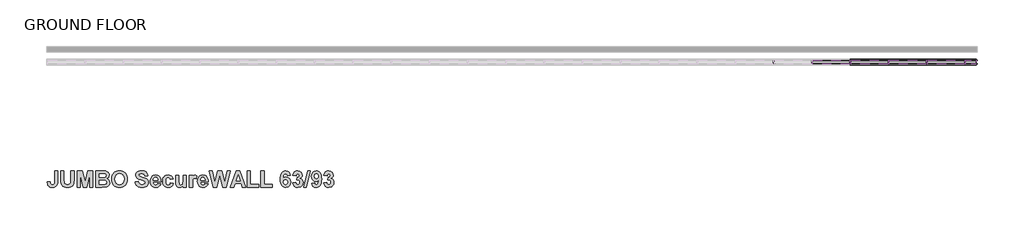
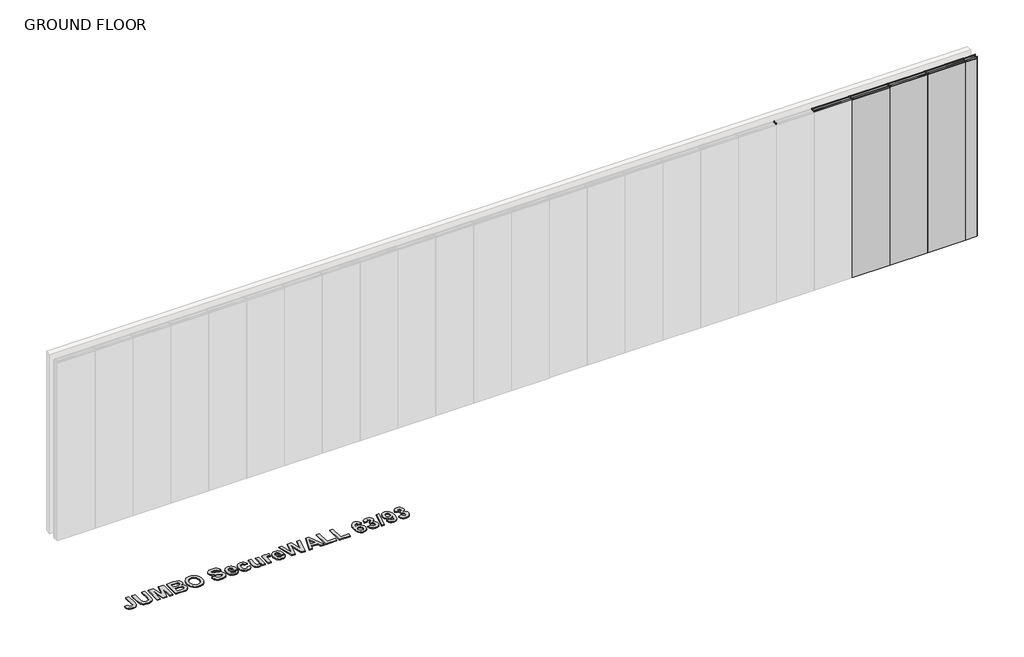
# One storey, part 2 of 2: 17 members, 4 plates, 1 proxy.
"""IFC4 building model written with IfcOpenShell, lengths in millimetres."""

from ifc_helpers import new_model, si_unit, origin, origin_with_axes, place, context, project, spatial, polyline, outline, extrude, transform, mapped, element, save
from components import rectangular_mullion_stud_mullion_63mm_b2ef130e, rectangular_mullion_stud_mullion_63mm_af775e70, rectangular_mullion_stud_mullion_63mm_c22ba0a2, rectangular_mullion_stud_mullion_63mm_ab3eab4e, rectangular_mullion_stud_mullion_63mm_06861ceb, rectangular_mullion_stud_mullion_63mm_08592bac, plate_2_layer_drywall_panels_with_galv_sheet_2_layer_15mm_8fcf15e8, plate_2_layer_drywall_panels_with_galv_sheet_2_layer_15mm_db85e073

model = new_model("IFC4")

# Units and contexts
model_context = context("Model", 3, world=origin())
ifc_project = project(units=[si_unit("LENGTHUNIT", "METRE", prefix="MILLI")], contexts=[model_context])

# Site, building, storey
site = spatial("IfcSite", under=ifc_project)
building = spatial("IfcBuilding", under=site)
storey = spatial("IfcBuildingStorey", under=building, Name="GROUND FLOOR", Elevation=0.0)

# Proxy
placement = place(None, origin())
element("IfcBuildingElementProxy", 1, Name="600mm Arial", ObjectType="600mm Arial", at=placement, inside=storey, context=model_context, shape_type="SweptSolid", body=[
    extrude(outline(polyline([(61762.9500241, -63331.743976), (61811.5338051, -63331.743976), (61811.5338051, -63492.994051), (61810.1104521, -63520.9866592), (61805.8403932, -63541.7043522), (61795.149431, -63561.7261838), (61778.2589759, -63577.3830664), (61755.0741377, -63587.4888724), (61725.5000263, -63590.8574744), (61691.5293357, -63585.4566406), (61677.8651473, -63578.7055985), (61666.4150635, -63569.2541395), (61657.3530497, -63557.1892463), (61650.8530712, -63542.5979016), (61645.5392201, -63505.8358577), (61694.1230011, -63501.7872093), (61696.3529207, -63520.417318), (61701.1448757, -63532.6581534), (61712.5633294, -63542.9062947), (61728.726293, -63546.3223418), (61744.7073837, -63543.8710117), (61755.200658, -63536.5170215), (61761.0126826, -63521.4611102), (61762.9500241, -63495.9040171), (61762.9500241, -63331.743976)])), origin_with_axes(), (0.0, 0.0, 1.0), 15.0),
    extrude(outline(polyline([(61860.117586, -63331.743976), (61908.701367, -63331.743976), (61908.701367, -63469.3347619), (61910.7889513, -63511.8455702), (61916.8777389, -63525.8814119), (61927.9324469, -63536.8649522), (61943.9530752, -63543.9579944), (61964.9396238, -63546.3223418), (61985.9024499, -63544.0924222), (62000.9662687, -63537.4026633), (62010.6687913, -63527.4629151), (62015.547729, -63515.4830277), (62018.0148741, -63472.307988), (62018.0148741, -63331.743976), (62066.598655, -63331.743976), (62066.598655, -63465.539154), (62062.3602262, -63530.3807887), (62056.3346987, -63547.8326775), (62046.7349738, -63562.3587851), (62033.4266236, -63574.085632), (62016.2752205, -63583.1397383), (61994.2844173, -63588.9280404), (61966.457867, -63590.8574744), (61933.8630842, -63588.754075), (61910.2196101, -63582.4438769), (61893.0602995, -63572.7650768), (61879.9180071, -63560.5558714), (61870.682028, -63546.7493477), (61865.2416567, -63532.2785926), (61861.3986037, -63505.1716263), (61860.117586, -63467.6267383), (61860.117586, -63331.743976)])), origin_with_axes(), (0.0, 0.0, 1.0), 15.0),
    extrude(outline(polyline([(62115.182436, -63586.808826), (62115.182436, -63331.743976), (62198.432769, -63331.743976), (62238.6662126, -63505.7093374), (62278.8996562, -63331.743976), (62362.1499892, -63331.743976), (62362.1499892, -63586.808826), (62313.5662082, -63586.808826), (62311.541884, -63386.0211687), (62267.1332717, -63586.808826), (62210.2624136, -63586.808826), (62165.7905412, -63386.0211687), (62163.7662169, -63586.808826), (62115.182436, -63586.808826)])), origin_with_axes(), (0.0, 0.0, 1.0), 15.0),
    extrude(outline(polyline([(62410.7337701, -63331.743976), (62515.4292877, -63331.743976), (62561.7673339, -63334.2743812), (62589.0957107, -63344.8704532), (62600.1425112, -63354.2645828), (62609.1808025, -63366.3156378), (62615.20633, -63380.5096298), (62617.2148391, -63396.3325702), (62614.8188617, -63413.570956), (62607.6309292, -63429.3543588), (62596.3310883, -63442.5282812), (62581.5993851, -63451.9382257), (62600.2294939, -63461.0793147), (62613.9885724, -63474.9649136), (62622.4812451, -63492.6619353), (62625.312136, -63513.2372931), (62623.2799042, -63530.3254361), (62617.1832091, -63546.9233131), (62607.5676691, -63561.6312936), (62594.9789029, -63573.0497474), (62579.2666678, -63580.9493563), (62560.2807208, -63585.1008024), (62497.9062312, -63586.808826), (62410.7337701, -63586.808826), (62410.7337701, -63331.743976)]), holes=[polyline([(62459.3175511, -63376.2791085), (62459.3175511, -63432.9601863), (62496.3879881, -63432.9601863), (62537.5070735, -63432.1378046), (62550.4516779, -63429.1803934), (62560.3123509, -63423.3446463), (62566.5513814, -63414.9152338), (62568.6310582, -63404.1768265), (62566.836052, -63393.9049626), (62561.4510333, -63385.7364982), (62552.5392623, -63380.0193638), (62540.163999, -63377.1014902), (62491.8332586, -63376.2791085), (62459.3175511, -63376.2791085)]), polyline([(62459.3175511, -63477.4953188), (62459.3175511, -63542.2736934), (62510.6847778, -63542.2736934), (62548.7673769, -63540.7554503), (62560.0118653, -63537.3631257), (62568.9473589, -63531.1082802), (62574.783106, -63522.117434), (62576.728355, -63510.5171074), (62575.2259269, -63500.4587465), (62570.7186425, -63492.045149), (62553.3853665, -63480.974626), (62504.1689843, -63477.4953188), (62459.3175511, -63477.4953188)])]), origin_with_axes(), (0.0, 0.0, 1.0), 15.0),
    extrude(outline(polyline([(62657.7013233, -63460.8579042), (62660.5638442, -63425.0842999), (62669.1514071, -63395.5734486), (62679.2493055, -63377.1410278), (62692.4627655, -63360.6854861), (62707.9377752, -63347.2189856), (62724.8203227, -63337.7536884), (62750.0294851, -63330.2099178), (62778.844475, -63327.6953275), (62805.1369671, -63329.8758252), (62828.6618285, -63336.4173182), (62849.4190591, -63347.3198065), (62867.408659, -63362.58329), (62881.9387205, -63381.7293642), (62892.3173358, -63404.2796242), (62898.544505, -63430.23407), (62900.620228, -63459.5927016), (62898.56032, -63488.7516685), (62892.3805959, -63514.5499408), (62882.0810558, -63536.9875187), (62867.6616995, -63556.0644021), (62849.7907124, -63571.2863712), (62829.1362795, -63582.1592063), (62805.6984008, -63588.6829073), (62779.4770763, -63590.8574744), (62752.9789887, -63588.6927917), (62729.3434221, -63582.1987439), (62708.5703765, -63571.3753308), (62690.6598518, -63556.2225524), (62676.2404955, -63537.2741661), (62665.9409554, -63515.0639294), (62659.7612313, -63489.5918421), (62657.7013233, -63460.8579042)]), holes=[polyline([(62706.2851042, -63459.0866206), (62711.4487125, -63496.837104), (62717.9032227, -63511.8099864), (62726.9395371, -63524.1812958), (62750.3853234, -63540.7870803), (62779.4138162, -63546.3223418), (62808.3790489, -63540.8266179), (62831.6350547, -63524.3394461), (62840.5606639, -63511.9740673), (62846.936099, -63496.8608266), (62852.0364471, -63458.3907591), (62847.0705268, -63420.4979404), (62840.8631264, -63405.6792546), (62832.1727658, -63393.6123845), (62809.0511878, -63377.5759412), (62779.4138162, -63372.2304601), (62749.7131845, -63377.6392013), (62726.401826, -63393.865425), (62717.6007602, -63406.0548616), (62711.3142847, -63420.9882064), (62706.2851042, -63459.0866206)])]), origin_with_axes(), (0.0, 0.0, 1.0), 15.0),
    extrude(outline(polyline([(63026.1283288, -63501.7872093), (63074.7121098, -63497.7385609), (63081.7972445, -63519.468416), (63093.6901492, -63534.5559574), (63110.4698991, -63543.3807457), (63132.2155692, -63546.3223418), (63154.7836211, -63543.7207689), (63170.9940298, -63535.9160502), (63180.7677201, -63524.6320243), (63184.0256169, -63511.5925297), (63178.6168757, -63496.378468), (63159.6704663, -63485.4660954), (63117.5392188, -63474.6486129), (63081.575834, -63463.4673847), (63058.2012155, -63449.7873812), (63040.2195231, -63426.4918378), (63034.2256256, -63398.6099349), (63036.9774414, -63379.8216759), (63045.2328885, -63362.2986194), (63058.6756664, -63347.4166735), (63076.9894745, -63336.551746), (63099.873827, -63329.9094321), (63127.0282385, -63327.6953275), (63168.9934282, -63333.214774), (63185.5339757, -63340.1140821), (63199.1131583, -63349.7731134), (63209.7744673, -63361.733232), (63217.5613941, -63375.535802), (63222.4739387, -63391.1808232), (63224.512101, -63408.6682958), (63175.9283201, -63408.6682958), (63170.5591164, -63391.9755286), (63161.2835996, -63380.7389478), (63147.247758, -63374.357582), (63127.5975797, -63372.2304601), (63106.9115167, -63374.4920098), (63091.2862642, -63381.2766589), (63084.928621, -63388.077123), (63082.8094066, -63396.8386512), (63084.7388406, -63405.1099134), (63090.5271426, -63412.0843429), (63107.330615, -63420.2528074), (63138.1303915, -63428.6901274), (63171.0019373, -63437.4674706), (63194.0207177, -63446.6560047), (63210.1520512, -63457.7818804), (63222.3612566, -63472.3712482), (63230.0473625, -63490.6059811), (63232.6093979, -63512.6679519), (63229.5808191, -63533.7335757), (63220.4950827, -63553.4074765), (63205.8661773, -63569.9500009), (63186.2080914, -63581.6214952), (63161.3073222, -63588.5484796), (63130.9503666, -63590.8574744), (63108.2478869, -63589.4360983), (63088.3446681, -63585.17197), (63071.2407101, -63578.0650897), (63056.9360128, -63568.1154571), (63045.3317325, -63555.4416851), (63036.329025, -63540.1623865), (63029.9278905, -63522.2775612), (63026.1283288, -63501.7872093)])), origin_with_axes(), (0.0, 0.0, 1.0), 15.0),
    extrude(outline(polyline([(63378.3607407, -63530.1277482), (63426.9445217, -63538.225045), (63415.1148771, -63560.8958946), (63397.9713815, -63577.4146964), (63375.6880001, -63587.4967799), (63348.4386985, -63590.8574744), (63326.4360341, -63588.8766415), (63307.4935785, -63582.9341429), (63291.6113317, -63573.0299786), (63278.7892938, -63559.1641485), (63265.409776, -63530.4598639), (63260.9499367, -63495.0816354), (63262.4286423, -63473.241075), (63266.864759, -63453.8992898), (63274.2582869, -63437.0562798), (63284.6092259, -63422.712045), (63297.2217146, -63411.2540537), (63311.3998916, -63403.0697742), (63327.1437568, -63398.1592065), (63344.4533102, -63396.5223506), (63363.688344, -63398.2026978), (63380.7804407, -63403.2437395), (63395.7296005, -63411.6454757), (63408.5358234, -63423.4079064), (63418.7404734, -63438.6417368), (63425.8849145, -63457.4576722), (63429.9691467, -63479.8557125), (63430.9931701, -63505.8358577), (63309.5337177, -63505.8358577), (63312.6492792, -63526.3005102), (63320.9838015, -63541.6410921), (63333.272082, -63551.225002), (63348.2489181, -63554.4196387), (63358.4496143, -63552.9804707), (63366.9106569, -63548.6629667), (63373.5687857, -63541.1508261), (63378.3607407, -63530.1277482)]), holes=[polyline([(63382.4093891, -63477.4953188), (63379.451978, -63458.2879614), (63371.5919066, -63444.3153799), (63360.1734529, -63435.7989847), (63346.5408946, -63432.9601863), (63332.1492147, -63435.9492275), (63320.4777204, -63444.9163511), (63312.8232445, -63459.0708055), (63310.3560994, -63477.4953188), (63382.4093891, -63477.4953188)])]), origin_with_axes(), (0.0, 0.0, 1.0), 15.0),
    extrude(outline(polyline([(63621.2796455, -63453.2034283), (63572.6958645, -63461.3007252), (63568.9714243, -63448.941277), (63562.352833, -63440.0769511), (63553.0773162, -63434.7393775), (63541.3820994, -63432.9601863), (63525.9782574, -63436.2971582), (63514.0537227, -63446.308074), (63506.4150618, -63464.131616), (63503.8688415, -63490.9064667), (63506.5178595, -63520.5912834), (63514.4649135, -63540.0595888), (63526.8718068, -63550.8296262), (63542.9003426, -63554.4196387), (63555.0383803, -63552.3715919), (63564.756718, -63546.2274516), (63572.0079106, -63535.0699459), (63576.7445129, -63517.9818029), (63625.3282939, -63526.0790998), (63614.6926843, -63554.2219507), (63597.3356857, -63574.5047304), (63573.0991478, -63586.7692884), (63541.8249204, -63590.8574744), (63523.058407, -63589.2482948), (63506.296449, -63584.420756), (63491.5390465, -63576.374858), (63478.7861994, -63565.1106009), (63468.5044511, -63551.0035916), (63461.1603452, -63534.4294371), (63456.7538817, -63515.3881375), (63455.2850605, -63493.8796929), (63456.7439973, -63472.128092), (63461.1208077, -63452.9266653), (63468.4154916, -63436.2754125), (63478.628049, -63422.1743339), (63491.3314742, -63410.9515912), (63506.0987611, -63402.9353464), (63522.9299098, -63398.1255995), (63541.8249204, -63396.5223506), (63571.0669161, -63400.0253803), (63593.634968, -63410.5344697), (63610.1616774, -63428.2077689), (63621.2796455, -63453.2034283)])), origin_with_axes(), (0.0, 0.0, 1.0), 15.0),
    extrude(outline(polyline([(63779.1769335, -63586.808826), (63779.1769335, -63559.4804492), (63767.9877978, -63572.5357588), (63753.7779908, -63582.4755069), (63737.6071197, -63588.7619825), (63720.5347917, -63590.8574744), (63703.6601516, -63588.8015201), (63688.5884253, -63582.6336573), (63676.3792199, -63572.7413542), (63668.0921427, -63559.5120792), (63663.3476329, -63541.7597048), (63661.7661296, -63518.2981036), (63661.7661296, -63400.570999), (63710.3499105, -63400.570999), (63710.3499105, -63486.6680379), (63712.975206, -63535.0936685), (63722.590746, -63549.2006778), (63740.3352128, -63554.4196387), (63751.9671695, -63552.679985), (63762.3181085, -63547.4610242), (63770.4944805, -63539.6563055), (63775.6027361, -63530.1593782), (63779.1769335, -63479.5829032), (63779.1769335, -63400.570999), (63827.7607145, -63400.570999), (63827.7607145, -63586.808826), (63779.1769335, -63586.808826)])), origin_with_axes(), (0.0, 0.0, 1.0), 15.0),
    extrude(outline(polyline([(63924.9282764, -63586.808826), (63876.3444954, -63586.808826), (63876.3444954, -63400.570999), (63924.9282764, -63400.570999), (63924.9282764, -63426.5076529), (63944.3491367, -63402.3106526), (63963.9597775, -63396.5223506), (63979.126394, -63399.0843859), (63993.7552994, -63406.7704919), (63979.58503, -63453.0136479), (63967.8819056, -63447.0830106), (63957.0644232, -63445.1061315), (63939.9525576, -63450.641393), (63933.7056196, -63458.3986666), (63928.9452947, -63470.5999645), (63924.9282764, -63531.0766501), (63924.9282764, -63586.808826)])), origin_with_axes(), (0.0, 0.0, 1.0), 15.0),
    extrude(outline(polyline([(64119.2634002, -63530.1277482), (64167.8471811, -63538.225045), (64156.0175366, -63560.8958946), (64138.8740409, -63577.4146964), (64116.5906596, -63587.4967799), (64089.341358, -63590.8574744), (64067.3386936, -63588.8766415), (64048.3962379, -63582.9341429), (64032.5139912, -63573.0299786), (64019.6919533, -63559.1641485), (64006.3124355, -63530.4598639), (64001.8525962, -63495.0816354), (64003.3313018, -63473.241075), (64007.7674185, -63453.8992898), (64015.1609464, -63437.0562798), (64025.5118854, -63422.712045), (64038.1243741, -63411.2540537), (64052.3025511, -63403.0697742), (64068.0464163, -63398.1592065), (64085.3559697, -63396.5223506), (64104.5910035, -63398.2026978), (64121.6831002, -63403.2437395), (64136.63226, -63411.6454757), (64149.4384829, -63423.4079064), (64159.6431328, -63438.6417368), (64166.7875739, -63457.4576722), (64170.8718062, -63479.8557125), (64171.8958296, -63505.8358577), (64050.4363772, -63505.8358577), (64053.5519387, -63526.3005102), (64061.886461, -63541.6410921), (64074.1747415, -63551.225002), (64089.1515776, -63554.4196387), (64099.3522738, -63552.9804707), (64107.8133164, -63548.6629667), (64114.4714452, -63541.1508261), (64119.2634002, -63530.1277482)]), holes=[polyline([(64123.3120486, -63477.4953188), (64120.3546375, -63458.2879614), (64112.4945661, -63444.3153799), (64101.0761124, -63435.7989847), (64087.4435541, -63432.9601863), (64073.0518742, -63435.9492275), (64061.3803799, -63444.9163511), (64053.725904, -63459.0708055), (64051.2587589, -63477.4953188), (64123.3120486, -63477.4953188)])]), origin_with_axes(), (0.0, 0.0, 1.0), 15.0),
    extrude(outline(polyline([(64758.9498494, -63586.808826), (64707.8989233, -63586.808826), (64687.9087218, -63530.1277482), (64591.5635416, -63530.1277482), (64571.8263806, -63586.808826), (64520.079593, -63586.808826), (64613.1985065, -63331.743976), (64664.945294, -63331.743976), (64758.9498494, -63586.808826)]), holes=[polyline([(64672.3467294, -63485.5926156), (64639.5147212, -63392.4737021), (64607.1255339, -63485.5926156), (64672.3467294, -63485.5926156)])]), origin_with_axes(), (0.0, 0.0, 1.0), 15.0),
    extrude(outline(polyline([(64248.2508082, -63586.808826), (64184.0417748, -63331.743976), (64233.8907584, -63331.743976), (64275.1363641, -63506.9745401), (64319.4817162, -63331.743976), (64384.829432, -63331.743976), (64428.9850038, -63509.8845061), (64470.2306095, -63331.743976), (64520.079593, -63331.743976), (64456.8194616, -63586.808826), (64399.3160021, -63586.808826), (64352.0606839, -63396.1427898), (64303.8564638, -63586.808826), (64248.2508082, -63586.808826)])), origin_with_axes(), (0.0, 0.0, 1.0), 15.0),
    extrude(outline(polyline([(64783.2417398, -63586.808826), (64783.2417398, -63331.743976), (64831.8255208, -63331.743976), (64831.8255208, -63542.2736934), (64961.38227, -63542.2736934), (64961.38227, -63586.808826), (64783.2417398, -63586.808826)])), origin_with_axes(), (0.0, 0.0, 1.0), 15.0),
    extrude(outline(polyline([(64997.8201057, -63586.808826), (64997.8201057, -63331.743976), (65046.4038867, -63331.743976), (65046.4038867, -63542.2736934), (65175.9606359, -63542.2736934), (65175.9606359, -63586.808826), (64997.8201057, -63586.808826)])), origin_with_axes(), (0.0, 0.0, 1.0), 15.0),
    extrude(outline(polyline([(65459.3660247, -63399.4323166), (65410.7822438, -63404.6196474), (65407.8090176, -63392.0229737), (65402.1788659, -63383.2060929), (65394.1764593, -63378.0108546), (65384.0864683, -63376.2791085), (65370.4855401, -63379.639803), (65359.1619765, -63389.7218864), (65350.8590843, -63410.5581922), (65346.3201698, -63446.1815537), (65366.3420015, -63430.1925555), (65390.7287821, -63424.8628894), (65418.5553324, -63430.5563013), (65442.0643788, -63447.6365368), (65458.0770996, -63473.715526), (65463.4146732, -63506.4051989), (65457.9584868, -63540.8424329), (65451.1382539, -63555.232136), (65441.5899278, -63567.7358963), (65429.8986648, -63577.8515867), (65416.649621, -63585.0770799), (65385.4781912, -63590.8574744), (65367.9472273, -63588.9913005), (65352.0452117, -63583.3927789), (65337.7721446, -63574.0619095), (65325.1280258, -63560.9986923), (65314.7770868, -63543.6851851), (65307.3835589, -63521.6034455), (65302.9474422, -63494.7534734), (65301.4687367, -63463.135269), (65303.0126792, -63430.6828215), (65307.644507, -63403.1014042), (65315.3642199, -63380.391017), (65326.171818, -63362.55166), (65339.4465612, -63349.0732982), (65354.5677095, -63339.445897), (65371.5352629, -63333.6694562), (65390.3492213, -63331.743976), (65415.6690889, -63336.077295), (65436.2128166, -63349.077252), (65451.0789475, -63370.3326561), (65459.3660247, -63399.4323166)]), holes=[polyline([(65350.0525176, -63505.3297766), (65352.6778131, -63522.7500353), (65360.5536994, -63535.6630097), (65371.7981878, -63543.6575088), (65384.5292892, -63546.3223418), (65396.422194, -63544.1398673), (65406.1642542, -63537.5924437), (65412.6642327, -63526.0632847), (65414.8308922, -63508.9356041), (65412.4981749, -63491.1832298), (65405.5000228, -63478.9186718), (65395.0067485, -63471.7781844), (65382.1886644, -63469.398022), (65369.750141, -63471.6753867), (65359.383387, -63478.5074809), (65352.385235, -63489.7677843), (65350.0525176, -63505.3297766)])]), origin_with_axes(), (0.0, 0.0, 1.0), 15.0),
    extrude(outline(polyline([(65495.8038605, -63515.5146578), (65544.3876414, -63509.8845061), (65548.1358042, -63525.5097586), (65555.3316441, -63536.9598424), (65565.1844096, -63543.981717), (65576.903349, -63546.3223418), (65589.4763001, -63543.6416938), (65599.8667767, -63535.5997495), (65606.8412062, -63523.0188909), (65609.166016, -63506.7214995), (65607.0388941, -63491.3018425), (65600.6575283, -63479.4563829), (65591.2080462, -63471.9126122), (65579.8765751, -63469.398022), (65560.5822351, -63473.0038495), (65564.8206639, -63432.9601863), (65578.6509101, -63431.2205327), (65588.7646236, -63424.9894097), (65594.956209, -63415.1208292), (65597.0200708, -63402.4688029), (65595.4781051, -63391.7224881), (65590.852208, -63383.3958733), (65583.6642755, -63378.0582997), (65574.4362038, -63376.2791085), (65565.0499818, -63378.3429703), (65557.1345579, -63384.5345557), (65551.3699784, -63394.6957143), (65548.4362898, -63408.6682958), (65499.8525089, -63401.3933807), (65505.4114929, -63379.655618), (65513.2320267, -63362.7730704), (65523.9546189, -63349.8600961), (65538.2197786, -63340.0310532), (65555.2130314, -63333.8157453), (65574.1199032, -63331.743976), (65604.7694369, -63337.4848329), (65617.5558909, -63344.6609041), (65628.6501365, -63354.7074037), (65641.3654229, -63374.7292353), (65645.6038517, -63397.218212), (65643.3304407, -63413.1637189), (65636.5102078, -63427.4091097), (65625.143153, -63439.9543846), (65609.2292761, -63450.7995433), (65629.0929574, -63458.3512215), (65644.5284295, -63471.6437567), (65654.4444551, -63489.5068363), (65657.749797, -63510.770148), (65651.8903273, -63541.5382944), (65634.3119183, -63567.4195957), (65621.8753718, -63577.6736676), (65608.0036111, -63584.9980047), (65575.954447, -63590.8574744), (65545.6923816, -63585.646421), (65521.076283, -63570.0132611), (65503.8616197, -63545.9665036), (65495.8038605, -63515.5146578)])), origin_with_axes(), (0.0, 0.0, 1.0), 15.0),
    extrude(outline(polyline([(65673.0587488, -63586.808826), (65733.788475, -63331.743976), (65771.1119525, -63331.743976), (65710.3822263, -63586.808826), (65673.0587488, -63586.808826)])), origin_with_axes(), (0.0, 0.0, 1.0), 15.0),
    extrude(outline(polyline([(65791.3551946, -63523.1691337), (65839.9389755, -63517.9818029), (65842.9201092, -63530.538939), (65848.5739835, -63539.3637274), (65856.6791878, -63544.5826882), (65867.0143118, -63546.3223418), (65880.3621995, -63542.9616473), (65891.5592428, -63532.8795639), (65899.862135, -63512.0907032), (65904.5275697, -63476.609677), (65884.2368826, -63492.4563399), (65859.423096, -63497.7385609), (65832.0235516, -63492.0688716), (65808.6568405, -63475.0598038), (65792.6441197, -63448.957092), (65787.3065462, -63416.006471), (65792.786455, -63381.7906475), (65799.6363412, -63367.440482), (65809.2261817, -63354.9288141), (65820.9352367, -63344.7854474), (65834.142766, -63337.5401855), (65865.0532477, -63331.743976), (65882.6672406, -63333.608173), (65898.6285625, -63339.200764), (65912.9372134, -63348.5217489), (65925.5931935, -63361.5711279), (65935.9441325, -63378.8905658), (65943.3376604, -63401.0217274), (65947.7737771, -63427.9646128), (65949.2524827, -63459.7192219), (65947.7065632, -63492.0866635), (65943.0688048, -63519.6028438), (65935.3392075, -63542.2677628), (65924.5177713, -63560.0814204), (65911.2173286, -63573.545944), (65896.0507121, -63583.1634609), (65879.0179217, -63588.933971), (65860.1189575, -63590.8574744), (65834.2771938, -63586.6190456), (65813.9390615, -63573.9037591), (65799.4999365, -63552.7432452), (65791.3551946, -63523.1691337)]), holes=[polyline([(65900.6687017, -63417.1451534), (65898.0592213, -63399.8988601), (65890.23078, -63387.0017008), (65878.9862917, -63378.9597566), (65866.1286699, -63376.2791085), (65854.2041352, -63378.4773981), (65844.493705, -63385.0722668), (65838.0411716, -63396.6646859), (65835.8903271, -63413.8556266), (65838.230952, -63431.4656657), (65845.2528266, -63443.6827786), (65855.7698234, -63450.8232659), (65868.5958151, -63453.2034283), (65881.0659685, -63450.9181561), (65891.4010925, -63444.0623393), (65898.3517994, -63432.7624984), (65900.6687017, -63417.1451534)])]), origin_with_axes(), (0.0, 0.0, 1.0), 15.0),
    extrude(outline(polyline([(65981.64167, -63515.5146578), (66030.2254509, -63509.8845061), (66033.9736137, -63525.5097586), (66041.1694536, -63536.9598424), (66051.0222191, -63543.981717), (66062.7411585, -63546.3223418), (66075.3141096, -63543.6416938), (66085.7045862, -63535.5997495), (66092.6790157, -63523.0188909), (66095.0038255, -63506.7214995), (66092.8767036, -63491.3018425), (66086.4953378, -63479.4563829), (66077.0458557, -63471.9126122), (66065.7143846, -63469.398022), (66046.4200446, -63473.0038495), (66050.6584734, -63432.9601863), (66064.4887196, -63431.2205327), (66074.6024331, -63424.9894097), (66080.7940185, -63415.1208292), (66082.8578803, -63402.4688029), (66081.3159146, -63391.7224881), (66076.6900175, -63383.3958733), (66069.502085, -63378.0582997), (66060.2740133, -63376.2791085), (66050.8877913, -63378.3429703), (66042.9723674, -63384.5345557), (66037.2077879, -63394.6957143), (66034.2740993, -63408.6682958), (65985.6903184, -63401.3933807), (65991.2493024, -63379.655618), (65999.0698362, -63362.7730704), (66009.7924285, -63349.8600961), (66024.0575881, -63340.0310532), (66041.0508409, -63333.8157453), (66059.9577127, -63331.743976), (66090.6072464, -63337.4848329), (66103.3937004, -63344.6609041), (66114.487946, -63354.7074037), (66127.2032324, -63374.7292353), (66131.4416612, -63397.218212), (66129.1682502, -63413.1637189), (66122.3480173, -63427.4091097), (66110.9809625, -63439.9543846), (66095.0670856, -63450.7995433), (66114.9307669, -63458.3512215), (66130.366239, -63471.6437567), (66140.2822646, -63489.5068363), (66143.5876065, -63510.770148), (66137.7281368, -63541.5382944), (66120.1497278, -63567.4195957), (66107.7131813, -63577.6736676), (66093.8414206, -63584.9980047), (66061.7922565, -63590.8574744), (66031.5301911, -63585.646421), (66006.9140925, -63570.0132611), (65989.6994292, -63545.9665036), (65981.64167, -63515.5146578)])), origin_with_axes(), (0.0, 0.0, 1.0), 15.0),
])

# Members
rectangular_mullion_stud_mullion_63mm_shape = rectangular_mullion_stud_mullion_63mm_b2ef130e(model_context)
element("IfcMember", 2, ObjectType="Rectangular Mullion : Stud Mullion - 63mm", at=placement, inside=storey, context=model_context, shape_type="MappedRepresentation", body=[
    mapped(rectangular_mullion_stud_mullion_63mm_shape, transform((76216.5186508, -61621.4010443, 3000.0), x_axis=(0.0, 0.0, 1.0), y_axis=(0.0, -1.0, 0.0), z_axis=(1.0, 0.0, 0.0))),
])
rectangular_mullion_stud_mullion_63mm_2_shape = rectangular_mullion_stud_mullion_63mm_af775e70(model_context)
element("IfcMember", 3, ObjectType="Rectangular Mullion : Stud Mullion - 63mm", at=placement, inside=storey, context=model_context, shape_type="MappedRepresentation", body=[
    mapped(rectangular_mullion_stud_mullion_63mm_2_shape, transform((73654.5186511, -61621.4010443, 0.0), x_axis=(0.0, 0.0, -1.0), y_axis=(0.0, -1.0, 0.0), z_axis=(-1.0, 0.0, 0.0))),
])
element("IfcMember", 4, ObjectType="Rectangular Mullion : Stud Mullion - 63mm", at=placement, inside=storey, context=model_context, shape_type="MappedRepresentation", body=[
    mapped(rectangular_mullion_stud_mullion_63mm_2_shape, transform((74254.5186511, -61621.4010443, 0.0), x_axis=(0.0, 0.0, -1.0), y_axis=(0.0, -1.0, 0.0), z_axis=(-1.0, 0.0, 0.0))),
])
element("IfcMember", 5, ObjectType="Rectangular Mullion : Stud Mullion - 63mm", at=placement, inside=storey, context=model_context, shape_type="MappedRepresentation", body=[
    mapped(rectangular_mullion_stud_mullion_63mm_2_shape, transform((74854.5186511, -61621.4010443, 0.0), x_axis=(0.0, 0.0, -1.0), y_axis=(0.0, -1.0, 0.0), z_axis=(-1.0, 0.0, 0.0))),
])
element("IfcMember", 6, ObjectType="Rectangular Mullion : Stud Mullion - 63mm", at=placement, inside=storey, context=model_context, shape_type="MappedRepresentation", body=[
    mapped(rectangular_mullion_stud_mullion_63mm_2_shape, transform((75454.5186511, -61621.4010443, 0.0), x_axis=(0.0, 0.0, -1.0), y_axis=(0.0, -1.0, 0.0), z_axis=(-1.0, 0.0, 0.0))),
])
rectangular_mullion_stud_mullion_63mm_3_shape = rectangular_mullion_stud_mullion_63mm_c22ba0a2(model_context)
element("IfcMember", 7, ObjectType="Rectangular Mullion : Stud Mullion - 63mm", at=placement, inside=storey, context=model_context, shape_type="MappedRepresentation", body=[
    mapped(rectangular_mullion_stud_mullion_63mm_3_shape, transform((76235.5186508, -61621.4010443, 0.0), x_axis=(1.0, 0.0, 0.0), y_axis=(0.0, -1.0, 0.0), z_axis=(0.0, 0.0, -1.0))),
])
rectangular_mullion_stud_mullion_63mm_4_shape = rectangular_mullion_stud_mullion_63mm_ab3eab4e(model_context)
element("IfcMember", 8, ObjectType="Rectangular Mullion : Stud Mullion - 63mm", at=placement, inside=storey, context=model_context, shape_type="MappedRepresentation", body=[
    mapped(rectangular_mullion_stud_mullion_63mm_4_shape, transform((74235.5186511, -61621.4010443, 3000.0), x_axis=(0.0, 0.0, 1.0), y_axis=(0.0, -1.0, 0.0), z_axis=(1.0, 0.0, 0.0))),
])
element("IfcMember", 9, ObjectType="Rectangular Mullion : Stud Mullion - 63mm", at=placement, inside=storey, context=model_context, shape_type="MappedRepresentation", body=[
    mapped(rectangular_mullion_stud_mullion_63mm_4_shape, transform((74835.5186511, -61621.4010443, 3000.0), x_axis=(0.0, 0.0, 1.0), y_axis=(0.0, -1.0, 0.0), z_axis=(1.0, 0.0, 0.0))),
])
element("IfcMember", 10, ObjectType="Rectangular Mullion : Stud Mullion - 63mm", at=placement, inside=storey, context=model_context, shape_type="MappedRepresentation", body=[
    mapped(rectangular_mullion_stud_mullion_63mm_4_shape, transform((75435.5186511, -61621.4010443, 3000.0), x_axis=(0.0, 0.0, 1.0), y_axis=(0.0, -1.0, 0.0), z_axis=(1.0, 0.0, 0.0))),
])
element("IfcMember", 11, ObjectType="Rectangular Mullion : Stud Mullion - 63mm", at=placement, inside=storey, context=model_context, shape_type="MappedRepresentation", body=[
    mapped(rectangular_mullion_stud_mullion_63mm_4_shape, transform((76035.5186511, -61621.4010443, 3000.0), x_axis=(0.0, 0.0, 1.0), y_axis=(0.0, -1.0, 0.0), z_axis=(1.0, 0.0, 0.0))),
])
rectangular_mullion_stud_mullion_63mm_5_shape = rectangular_mullion_stud_mullion_63mm_06861ceb(model_context)
element("IfcMember", 12, ObjectType="Rectangular Mullion : Stud Mullion - 63mm", at=placement, inside=storey, context=model_context, shape_type="MappedRepresentation", body=[
    mapped(rectangular_mullion_stud_mullion_63mm_5_shape, transform((76054.5186511, -61621.4010443, 0.0), x_axis=(0.0, 0.0, -1.0), y_axis=(0.0, -1.0, 0.0), z_axis=(-1.0, 0.0, 0.0))),
])
rectangular_mullion_stud_mullion_63mm_6_shape = rectangular_mullion_stud_mullion_63mm_08592bac(model_context)
element("IfcMember", 13, ObjectType="Rectangular Mullion : Stud Mullion - 63mm", at=placement, inside=storey, context=model_context, shape_type="MappedRepresentation", body=[
    mapped(rectangular_mullion_stud_mullion_63mm_6_shape, transform((73045.0186511, -61621.4010443, 0.0), x_axis=(1.0, 0.0, 0.0), y_axis=(0.0, -1.0, 0.0), z_axis=(0.0, 0.0, -1.0))),
])
element("IfcMember", 14, ObjectType="Rectangular Mullion : Stud Mullion - 63mm", at=placement, inside=storey, context=model_context, shape_type="MappedRepresentation", body=[
    mapped(rectangular_mullion_stud_mullion_63mm_6_shape, transform((73645.0186511, -61621.4010443, 0.0), x_axis=(1.0, 0.0, 0.0), y_axis=(0.0, -1.0, 0.0), z_axis=(0.0, 0.0, -1.0))),
])
element("IfcMember", 15, ObjectType="Rectangular Mullion : Stud Mullion - 63mm", at=placement, inside=storey, context=model_context, shape_type="MappedRepresentation", body=[
    mapped(rectangular_mullion_stud_mullion_63mm_6_shape, transform((74245.0186511, -61621.4010443, 0.0), x_axis=(1.0, 0.0, 0.0), y_axis=(0.0, -1.0, 0.0), z_axis=(0.0, 0.0, -1.0))),
])
element("IfcMember", 16, ObjectType="Rectangular Mullion : Stud Mullion - 63mm", at=placement, inside=storey, context=model_context, shape_type="MappedRepresentation", body=[
    mapped(rectangular_mullion_stud_mullion_63mm_6_shape, transform((74845.0186511, -61621.4010443, 0.0), x_axis=(1.0, 0.0, 0.0), y_axis=(0.0, -1.0, 0.0), z_axis=(0.0, 0.0, -1.0))),
])
element("IfcMember", 17, ObjectType="Rectangular Mullion : Stud Mullion - 63mm", at=placement, inside=storey, context=model_context, shape_type="MappedRepresentation", body=[
    mapped(rectangular_mullion_stud_mullion_63mm_6_shape, transform((75445.0186511, -61621.4010443, 0.0), x_axis=(1.0, 0.0, 0.0), y_axis=(0.0, -1.0, 0.0), z_axis=(0.0, 0.0, -1.0))),
])
element("IfcMember", 18, ObjectType="Rectangular Mullion : Stud Mullion - 63mm", at=placement, inside=storey, context=model_context, shape_type="MappedRepresentation", body=[
    mapped(rectangular_mullion_stud_mullion_63mm_6_shape, transform((76045.0186511, -61621.4010443, 0.0), x_axis=(1.0, 0.0, 0.0), y_axis=(0.0, -1.0, 0.0), z_axis=(0.0, 0.0, -1.0))),
])

# Plates
plate_2_layer_drywall_panels_with_galv_sheet_2_layer_15mm_shape = plate_2_layer_drywall_panels_with_galv_sheet_2_layer_15mm_8fcf15e8(model_context)
element("IfcPlate", 19, ObjectType="2 Layer - Drywall Panels with Galv sheet : 2 Layer - 15mm Drywall Panels 93mm", at=placement, inside=storey, context=model_context, shape_type="MappedRepresentation", body=[
    mapped(plate_2_layer_drywall_panels_with_galv_sheet_2_layer_15mm_shape, transform((74536.3186511, -61621.4010443, 1.6), x_axis=(1.0, 0.0, 0.0), y_axis=(0.0, 1.0, 0.0), z_axis=(0.0, 0.0, 1.0))),
])
element("IfcPlate", 20, ObjectType="2 Layer - Drywall Panels with Galv sheet : 2 Layer - 15mm Drywall Panels 93mm", at=placement, inside=storey, context=model_context, shape_type="MappedRepresentation", body=[
    mapped(plate_2_layer_drywall_panels_with_galv_sheet_2_layer_15mm_shape, transform((75136.3186511, -61621.4010443, 1.6), x_axis=(1.0, 0.0, 0.0), y_axis=(0.0, 1.0, 0.0), z_axis=(0.0, 0.0, 1.0))),
])
element("IfcPlate", 21, ObjectType="2 Layer - Drywall Panels with Galv sheet : 2 Layer - 15mm Drywall Panels 93mm", at=placement, inside=storey, context=model_context, shape_type="MappedRepresentation", body=[
    mapped(plate_2_layer_drywall_panels_with_galv_sheet_2_layer_15mm_shape, transform((75736.3186511, -61621.4010443, 1.6), x_axis=(1.0, 0.0, 0.0), y_axis=(0.0, 1.0, 0.0), z_axis=(0.0, 0.0, 1.0))),
])
plate_2_layer_drywall_panels_with_galv_sheet_2_layer_15mm_2_shape = plate_2_layer_drywall_panels_with_galv_sheet_2_layer_15mm_db85e073(model_context)
element("IfcPlate", 22, ObjectType="2 Layer - Drywall Panels with Galv sheet : 2 Layer - 15mm Drywall Panels 93mm", at=placement, inside=storey, context=model_context, shape_type="MappedRepresentation", body=[
    mapped(plate_2_layer_drywall_panels_with_galv_sheet_2_layer_15mm_2_shape, transform((76126.818651, -61621.4010443, 1.6), x_axis=(1.0, 0.0, 0.0), y_axis=(0.0, 1.0, 0.0), z_axis=(0.0, 0.0, 1.0))),
])

save(model, "model.ifc")
